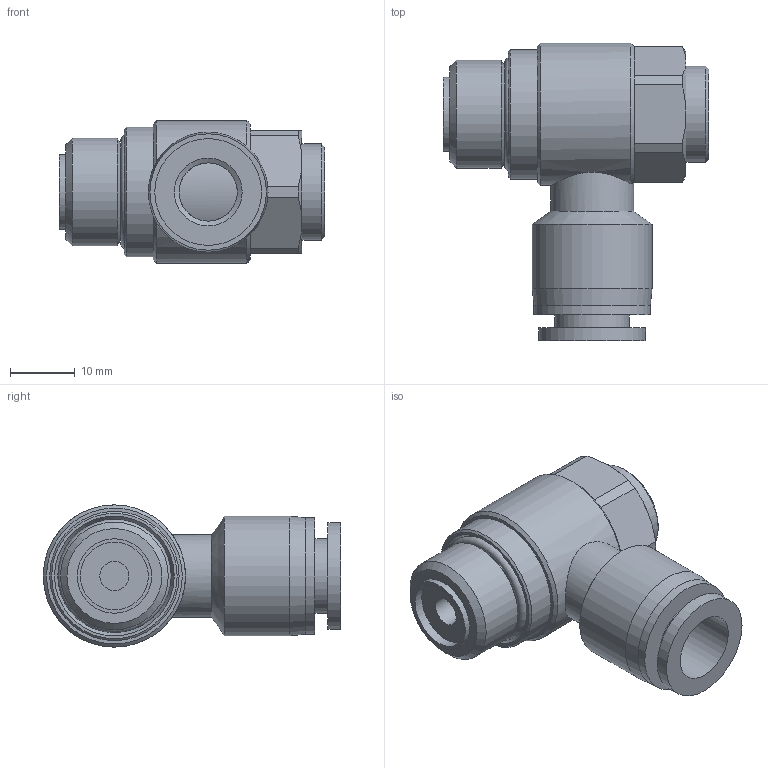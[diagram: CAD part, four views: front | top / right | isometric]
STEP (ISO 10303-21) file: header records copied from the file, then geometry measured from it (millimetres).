
FILE_DESCRIPTION(/* description */ (''),/* implementation_level */ '2;1');
FILE_NAME(/* name */ 'S:\_Tecnico\ArchivioUT\DISEGNI\DISEGNI 3D per ingombri\DP\DP 79\DP79C3810.stp',/* time_stamp */ '2018-12-17T15:25:36+01:00',/* author */ ('UfficioTecnico'),/* organization */ (''),/* preprocessor_version */ 'ST-DEVELOPER v16.1',/* originating_system */ 'Autodesk Inventor 2016',/* authorisation */ '');
FILE_SCHEMA (('AUTOMOTIVE_DESIGN { 1 0 10303 214 3 1 1 }'));
Length unit declared in the file: millimetre
Products named in the file (1): DP79C3810
Bounding box: 41 x 46 x 22 mm (x, y, z)
Volume: 15041.2 mm3; surface area: 6205.9 mm2
Topology: 1 solids, 2 shells, 72 faces, 162 edges, 104 vertices
Faces by surface type: plane 36, cylinder 18, cone 16, torus 2
Full cylindrical faces by diameter (mm): 4.5 x1, 8 x1, 9 x1, 10.5 x2, 11.5 x2, 12.8 x1, 14.75 x2, 14.85 x1, 16.5 x1, 16.662 x1, 18 x1, 18.5 x1, 20 x1, 22 x1
Entity records: 1878 total; most frequent: CARTESIAN_POINT 456, DIRECTION 280, ORIENTED_EDGE 254, AXIS2_PLACEMENT_3D 127, EDGE_CURVE 126, EDGE_LOOP 113, VERTEX_POINT 97, FACE_OUTER_BOUND 72
